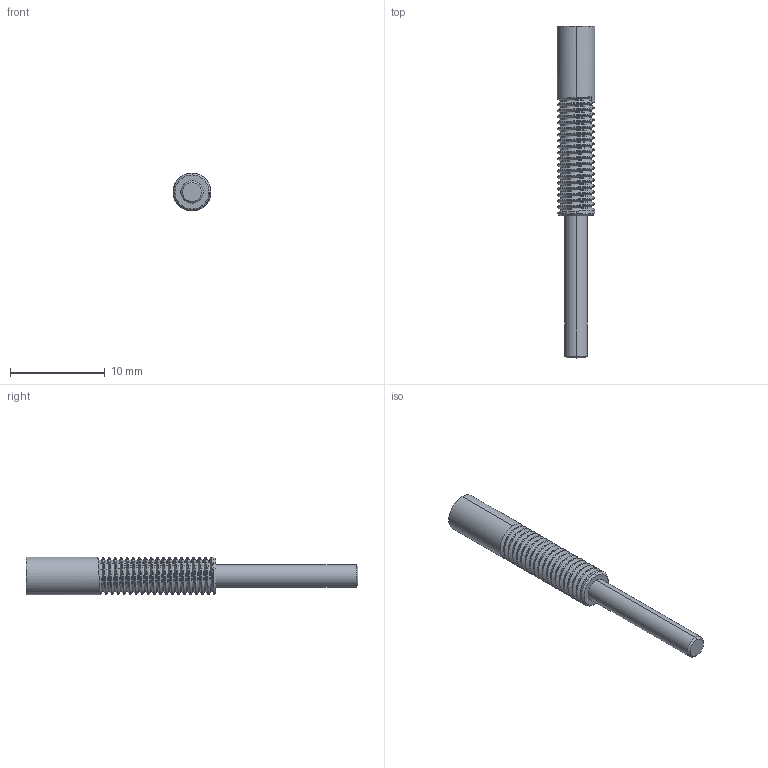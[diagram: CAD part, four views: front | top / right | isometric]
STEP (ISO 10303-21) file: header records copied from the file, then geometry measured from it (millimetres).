
FILE_DESCRIPTION (( 'STEP AP203' ), '1' );
FILE_NAME ('2傻階裝.STEP', '2024-05-31T02:01:48', ( '' ), ( '' ), 'SwSTEP 2.0', 'SolidWorks 2024', '' );
FILE_SCHEMA (( 'CONFIG_CONTROL_DESIGN' ));
Length unit declared in the file: millimetre
Products named in the file (1): 2短顶杆
Bounding box: 4 x 35 x 4 mm (x, y, z)
Volume: 274.9 mm3; surface area: 493.4 mm2
Topology: 1 solids, 1 shells, 60 faces, 165 edges, 109 vertices
Faces by surface type: cylinder 41, plane 12, cone 4, bspline 3
Entity records: 4142 total; most frequent: CARTESIAN_POINT 2793, ORIENTED_EDGE 330, DIRECTION 205, EDGE_CURVE 165, VERTEX_POINT 109, AXIS2_PLACEMENT_3D 70, LINE 65, VECTOR 65
